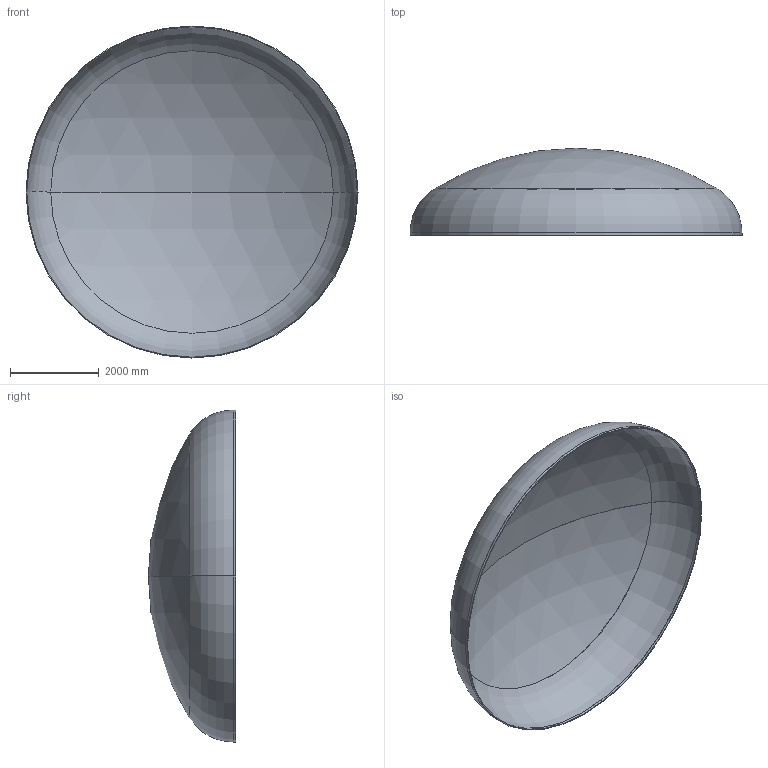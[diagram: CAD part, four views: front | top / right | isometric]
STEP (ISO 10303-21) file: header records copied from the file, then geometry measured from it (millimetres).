
FILE_DESCRIPTION (( 'STEP AP203' ), '1' );
FILE_NAME ('DIN 28013 Korbbogenform_-_Boden DIN 28013 - 7500 x 55 - I - s=18.step', '2016-07-04T10:51:55', ( '' ), ( '' ), 'SwSTEP 2.0', 'SolidWorks 2013', '' );
FILE_SCHEMA (( 'CONFIG_CONTROL_DESIGN' ));
Length unit declared in the file: millimetre
Products named in the file (1): DIN 28013 Korbbogenform_-_Boden DIN 28013 - 7500 x 55 - I - s=18
Bounding box: 7500 x 1970.18 x 7500 mm (x, y, z)
Volume: 1121234194 mm3; surface area: 125005301.6 mm2
Topology: 1 solids, 1 shells, 13 faces, 24 edges, 14 vertices
Faces by surface type: torus 4, cylinder 4, sphere 4, plane 1
Entity records: 407 total; most frequent: DIRECTION 72, CARTESIAN_POINT 52, ORIENTED_EDGE 48, AXIS2_PLACEMENT_3D 34, EDGE_CURVE 24, CIRCLE 20, VERTEX_POINT 14, EDGE_LOOP 14
